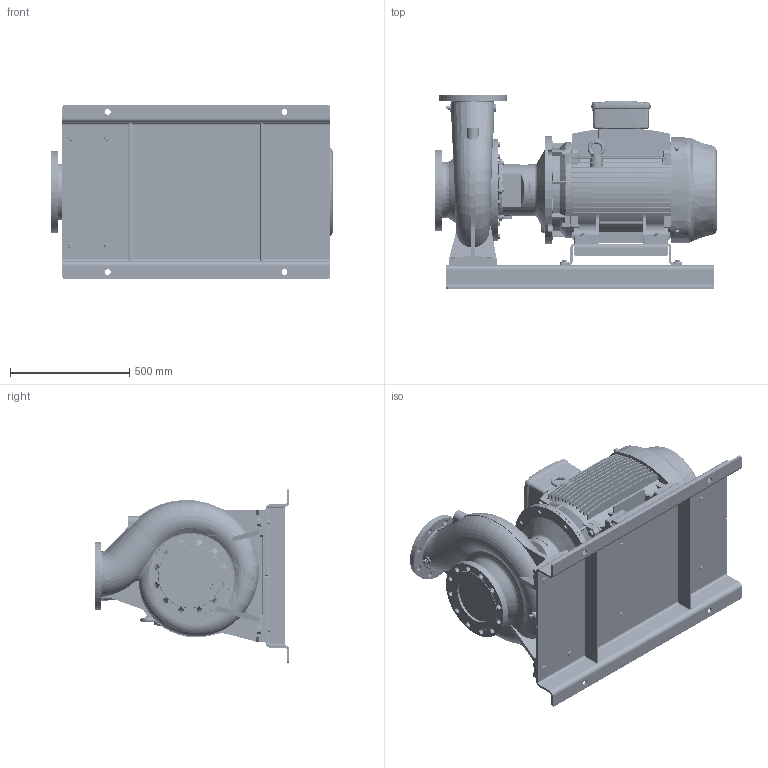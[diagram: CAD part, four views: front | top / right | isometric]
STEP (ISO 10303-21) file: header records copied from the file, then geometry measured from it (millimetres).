
FILE_DESCRIPTION (( 'STEP AP214' ), '1' );
FILE_NAME ('GSD4 150-315_37 & 45_(225SM)_W21_BP.STEP', '2026-05-08T00:11:34', ( '' ), ( '' ), 'SwSTEP 2.0', 'SolidWorks 2024', '' );
FILE_SCHEMA (( 'AUTOMOTIVE_DESIGN' ));
Length unit declared in the file: millimetre
Products named in the file (13): 225S_M4P IE3_W21T_B35; Parametric Flat Washer_M16; Parametric Flat Washer_M20; Parametric bolt and washer_SFT-A403B; GSD4 150-315_37 & 45_(225SM)_W21_BP; CGS11-5283; Parametric bolt_SFT-A351B; N9S4 GSDA-94F F1-1832983-00; Parametric bolt_SFT-A359B; Parametric bolt and washer_SFT-A359B; 150-315-225S_M_ﾃﾞﾌｫﾙﾄ; Parametric bolt_SFT-A403B; Parametric bolt and washer_SFT-A351B
Assembly tree (22 placements, depth 3):
  GSD4 150-315_37 & 45_(225SM)_W21_BP
    150-315-225S_M_ﾃﾞﾌｫﾙﾄ
    225S_M4P IE3_W21T_B35
    N9S4 GSDA-94F F1-1832983-00
    CGS11-5283
    Parametric bolt and washer_SFT-A403B  x4
      Parametric bolt_SFT-A403B
      Parametric Flat Washer_M20
    Parametric bolt and washer_SFT-A351B  x4
      Parametric bolt_SFT-A351B
      Parametric Flat Washer_M16
    Parametric bolt and washer_SFT-A359B  x4
      Parametric bolt_SFT-A359B
      Parametric Flat Washer_M16
Bounding box: 1184.5 x 815 x 730 mm (x, y, z)
Volume: 168704372.2 mm3; surface area: 7778422.5 mm2
Topology: 31 solids, 36 shells, 4392 faces, 11623 edges, 7438 vertices
Faces by surface type: plane 1754, cylinder 1543, cone 506, bspline 299, torus 272, sphere 18
Entity records: 180739 total; most frequent: CARTESIAN_POINT 90096, ORIENTED_EDGE 19924, DIRECTION 17853, EDGE_CURVE 9962, AXIS2_PLACEMENT_3D 6513, VERTEX_POINT 6367, LINE 4827, VECTOR 4827
